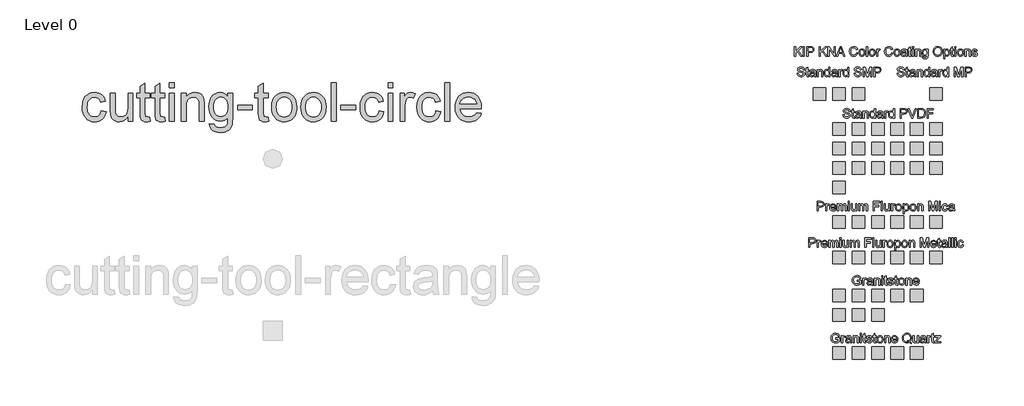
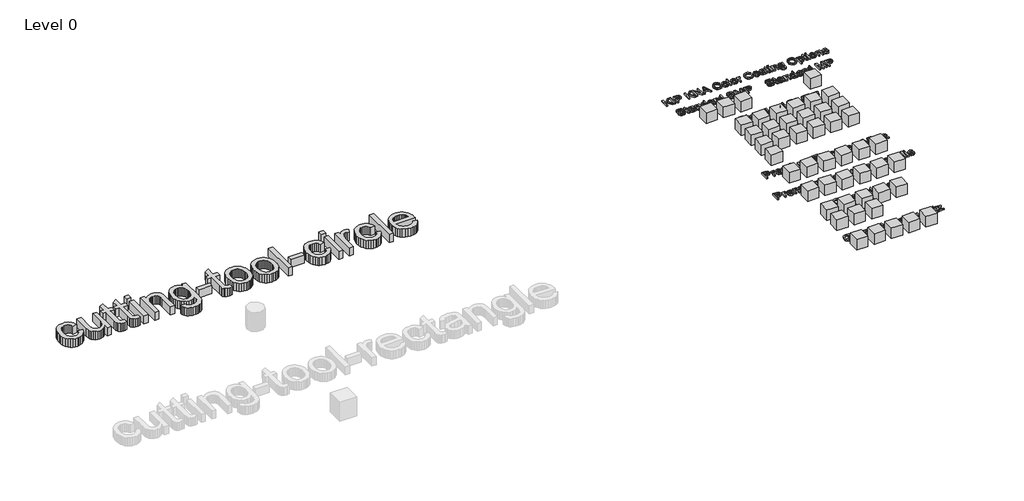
# One storey, part 5 of 5: 50 proxies.
"""IFC4 building model written with IfcOpenShell, lengths in millimetres."""

from ifc_helpers import new_model, si_unit, origin, origin_with_axes, place, context, project, spatial, polyline, outline, extrude, transform, mapped, element, save
from components import ks_color_sample_ks_color_sample_0243efec, r19_kna_color_range_kingspan_quadcore_4278cd54, r19_kna_color_range_kingspan_quadcore_c5814d20, r19_kna_color_range_kingspan_quadcore_91b79b7c

model = new_model("IFC4")

# Units and contexts
model_context = context("Model", 3, world=origin())
ifc_project = project(units=[si_unit("LENGTHUNIT", "METRE", prefix="MILLI")], contexts=[model_context])

# Site, building, storey
site = spatial("IfcSite", under=ifc_project)
building = spatial("IfcBuilding", under=site)
storey = spatial("IfcBuildingStorey", under=building, Name="Level 0", Elevation=0.0)

# Proxies
placement = place(None, origin())
element("IfcBuildingElementProxy", 1, Name="24\" Arial", ObjectType="24\" Arial", at=placement, inside=storey, context=model_context, shape_type="SweptSolid", body=[
    extrude(outline(polyline([(730.3650298, 13365.9184127), (806.5068033, 13356.400691), (798.2252701, 13320.4722211), (785.2778225, 13288.6798704), (767.6644606, 13261.0236391), (745.3851843, 13237.5035271), (719.3787534, 13218.7329812), (690.5839274, 13205.3254484), (659.0007064, 13197.2809288), (624.6290904, 13194.5994222), (581.9248206, 13198.3405189), (543.6355095, 13209.5638089), (509.7611573, 13228.2692922), (480.3017638, 13254.4569688), (456.456339, 13287.6342223), (439.4238928, 13327.3084362), (429.204425, 13373.4796105), (425.7979357, 13426.1477452), (431.6163867, 13493.9057444), (438.8894504, 13524.396844), (449.0717395, 13552.6293436), (462.2329641, 13578.0362696), (478.4428338, 13600.0506484), (497.7013488, 13618.6724798), (520.008509, 13633.901764), (544.3558449, 13645.7431482), (569.734887, 13654.2012798), (596.1456352, 13659.2761587), (623.5880896, 13660.967785), (657.3694953, 13658.6441225), (687.9256575, 13651.673135), (715.2565761, 13640.0548223), (739.3622511, 13623.7891847), (759.8337179, 13603.248008), (776.2620119, 13578.8030783), (788.6471332, 13550.4543955), (796.9890816, 13518.2019597), (720.8473081, 13508.684238), (707.0354581, 13541.9033174), (685.5276378, 13565.7162109), (657.5135624, 13580.0485614), (624.1829472, 13584.8260115), (598.3112887, 13582.4744651), (574.9770696, 13575.4198256), (554.1802901, 13563.6620933), (535.92095, 13547.201268), (521.0541572, 13525.6562691), (510.4350194, 13498.6460159), (504.0635368, 13466.1705085), (501.9397092, 13428.2297468), (504.0170635, 13389.7173642), (510.2491264, 13356.8654235), (520.6358979, 13329.6739246), (535.177378, 13308.1428677), (553.0742267, 13291.7796362), (573.5271042, 13280.0916138), (596.5360105, 13273.0788003), (622.1009456, 13270.7411958), (661.5288513, 13276.578236), (678.5798868, 13283.8745363), (693.8556443, 13294.0893568), (706.9285696, 13307.3342332), (717.371109, 13323.7207013), (725.1832624, 13343.2487611), (730.3650298, 13365.9184127)])), origin_with_axes(), (0.0, 0.0, 1.0), 152.4),
    extrude(outline(polyline([(1158.6625058, 13204.1171439), (1158.6625058, 13281.0024895), (1131.113163, 13243.2011476), (1099.0280309, 13216.2001891), (1062.4071095, 13199.9996139), (1021.2503989, 13194.5994222), (984.1647451, 13198.3916395), (949.6444147, 13209.7682912), (920.682285, 13226.8704474), (900.2712334, 13247.839178), (886.5337406, 13273.3065192), (877.5922872, 13303.9045073), (873.1308551, 13374.6925623), (873.1308551, 13651.4500634), (949.2726287, 13651.4500634), (949.2726287, 13410.5327331), (950.4251653, 13362.349267), (953.8827751, 13332.9038156), (964.9805873, 13307.0089204), (983.9974414, 13287.3228515), (1009.6692649, 13274.8866097), (1040.7319855, 13270.7411958), (1073.5792789, 13274.9795562), (1104.3073921, 13287.6946375), (1129.6446083, 13307.7153138), (1146.3192105, 13333.8704592), (1155.576682, 13369.6920406), (1158.6625058, 13418.7120252), (1158.6625058, 13651.4500634), (1234.8042793, 13651.4500634), (1234.8042793, 13204.1171439), (1158.6625058, 13204.1171439)])), origin_with_axes(), (0.0, 0.0, 1.0), 152.4),
    extrude(outline(polyline([(1501.3004867, 13267.6181933), (1510.8182083, 13201.8864279), (1480.6663635, 13196.4211737), (1453.8605926, 13194.5994222), (1417.3140285, 13197.7596033), (1390.0621144, 13207.2401464), (1370.8035994, 13221.8513363), (1358.2372325, 13240.4034579), (1351.3220128, 13272.2655184), (1349.0169396, 13326.8065251), (1349.0169396, 13575.3082898), (1291.9106095, 13575.3082898), (1291.9106095, 13651.4500634), (1349.0169396, 13651.4500634), (1349.0169396, 13760.1602908), (1425.1587131, 13804.9233256), (1425.1587131, 13651.4500634), (1501.3004867, 13651.4500634), (1501.3004867, 13575.3082898), (1425.1587131, 13575.3082898), (1425.1587131, 13329.0372411), (1429.174002, 13289.7766391), (1442.1865121, 13275.8718426), (1453.1727885, 13272.0238575), (1468.1371751, 13270.7411958), (1501.3004867, 13267.6181933)])), origin_with_axes(), (0.0, 0.0, 1.0), 152.4),
    extrude(outline(polyline([(1739.2435289, 13267.6181933), (1748.7612506, 13201.8864279), (1718.6094057, 13196.4211737), (1691.8036349, 13194.5994222), (1655.2570707, 13197.7596033), (1628.0051567, 13207.2401464), (1608.7466417, 13221.8513363), (1596.1802748, 13240.4034579), (1589.2650551, 13272.2655184), (1586.9599819, 13326.8065251), (1586.9599819, 13575.3082898), (1529.8536517, 13575.3082898), (1529.8536517, 13651.4500634), (1586.9599819, 13651.4500634), (1586.9599819, 13760.1602908), (1663.1017554, 13804.9233256), (1663.1017554, 13651.4500634), (1739.2435289, 13651.4500634), (1739.2435289, 13575.3082898), (1663.1017554, 13575.3082898), (1663.1017554, 13329.0372411), (1667.1170442, 13289.7766391), (1680.1295543, 13275.8718426), (1691.1158307, 13272.0238575), (1706.0802174, 13270.7411958), (1739.2435289, 13267.6181933)])), origin_with_axes(), (0.0, 0.0, 1.0), 152.4),
    extrude(outline(polyline([(1815.3853024, 13737.1095586), (1815.3853024, 13813.2513321), (1891.5270759, 13813.2513321), (1891.5270759, 13737.1095586), (1815.3853024, 13737.1095586)])), origin_with_axes(), (0.0, 0.0, 1.0), 152.4),
    extrude(outline(polyline([(1815.3853024, 13204.1171439), (1815.3853024, 13651.4500634), (1891.5270759, 13651.4500634), (1891.5270759, 13204.1171439), (1815.3853024, 13204.1171439)])), origin_with_axes(), (0.0, 0.0, 1.0), 152.4),
    extrude(outline(polyline([(2005.7397362, 13204.1171439), (2005.7397362, 13651.4500634), (2081.8815097, 13651.4500634), (2081.8815097, 13588.9900148), (2108.3340839, 13620.4802893), (2140.1031979, 13642.9733425), (2177.1888517, 13656.4691744), (2219.5910454, 13660.967785), (2257.1228425, 13657.3428715), (2291.4944585, 13646.4681309), (2320.1591594, 13629.7005821), (2340.570211, 13608.3972441), (2354.4192396, 13582.6138848), (2363.3978716, 13552.406272), (2367.4131604, 13478.7926433), (2367.4131604, 13204.1171439), (2291.2713869, 13204.1171439), (2291.2713869, 13468.5313496), (2289.0778495, 13507.9034874), (2282.4972372, 13535.8989735), (2270.3584242, 13555.9568284), (2251.4902845, 13571.5160726), (2227.305605, 13581.4985268), (2199.2171724, 13584.8260115), (2176.0967303, 13582.9577869), (2154.6214413, 13577.3531129), (2134.7913053, 13568.0119895), (2116.6063225, 13554.9344168), (2101.4142169, 13536.6332508), (2090.5627129, 13511.6213474), (2084.0518105, 13479.8987067), (2081.8815097, 13441.4653286), (2081.8815097, 13204.1171439), (2005.7397362, 13204.1171439)])), origin_with_axes(), (0.0, 0.0, 1.0), 152.4),
    extrude(outline(polyline([(2453.0726556, 13166.0462572), (2529.2144291, 13156.5285355), (2537.6167928, 13132.7342313), (2553.9010198, 13116.3756471), (2585.9117947, 13103.6605658), (2627.8120773, 13099.4222054), (2672.5007549, 13104.2182448), (2690.5509654, 13110.2132941), (2705.7384236, 13118.6063631), (2728.7891558, 13141.6570954), (2742.917024, 13172.4409764), (2747.0438486, 13205.1953233), (2748.122028, 13261.2234741), (2722.7848119, 13236.2394546), (2694.5104863, 13218.3937265), (2663.2990513, 13207.6862896), (2629.1505069, 13204.1171439), (2587.403586, 13208.2718525), (2550.6478922, 13220.7359783), (2518.8834256, 13241.5095212), (2492.110186, 13270.5924814), (2470.8672632, 13305.4845978), (2455.6937469, 13343.6856097), (2446.5896372, 13385.1955169), (2443.5549339, 13430.0143197), (2449.0015989, 13491.4891353), (2465.3415937, 13548.0191972), (2477.4525228, 13573.509775), (2491.9986502, 13595.9238237), (2508.9799759, 13615.2613432), (2528.3964999, 13631.5223336), (2549.9368515, 13644.4047186), (2573.2896599, 13653.6064222), (2598.454925, 13659.1274443), (2625.4326468, 13660.967785), (2661.0404513, 13656.8037818), (2693.3579497, 13644.3117721), (2722.3851419, 13623.4917559), (2748.122028, 13594.3437332), (2748.122028, 13651.4500634), (2824.2638015, 13651.4500634), (2824.2638015, 13265.2387629), (2819.0587975, 13176.06589), (2812.5525424, 13142.8979311), (2803.4437853, 13117.3422907), (2791.5141019, 13096.7314042), (2776.545068, 13078.3977069), (2758.5366834, 13062.3411988), (2737.4889483, 13048.5618801), (2713.6156396, 13037.5012465), (2687.1305341, 13029.6007939), (2658.033632, 13024.8605224), (2626.3249333, 13023.2804318), (2589.0208551, 13025.5065005), (2555.4811103, 13032.1847066), (2525.7056987, 13043.3150501), (2499.6946205, 13058.897531), (2478.6840639, 13078.9507385), (2463.9102176, 13103.4932621), (2455.3730815, 13132.5251016), (2453.0726556, 13166.0462572)]), holes=[polyline([(2519.6967074, 13435.2193237), (2521.7275885, 13397.5713435), (2527.8202316, 13365.379323), (2537.9746368, 13338.643262), (2552.1908042, 13317.3631606), (2569.474206, 13301.1300542), (2588.8303148, 13289.5349782), (2610.2591306, 13282.5779327), (2633.7606533, 13280.2589175), (2657.0298098, 13282.5639907), (2678.3563844, 13289.4792103), (2697.7403772, 13301.0045765), (2715.1817881, 13317.140089), (2729.5931431, 13338.2110608), (2739.886968, 13364.5428044), (2746.063263, 13396.1353201), (2748.122028, 13432.9886077), (2746.0028478, 13468.3036307), (2739.6453071, 13498.9992126), (2729.049406, 13525.0753534), (2714.2151445, 13546.5320532), (2696.3973003, 13563.2856599), (2676.8506511, 13575.2525219), (2655.5751971, 13582.4326391), (2632.5709381, 13584.8260115), (2609.9524071, 13582.4698177), (2589.090565, 13575.4012363), (2569.9854117, 13563.6202673), (2552.6369474, 13547.1269108), (2538.2255924, 13525.9955238), (2527.9317674, 13500.3004636), (2521.7554724, 13470.0417303), (2519.6967074, 13435.2193237)])]), origin_with_axes(), (0.0, 0.0, 1.0), 152.4),
    extrude(outline(polyline([(2900.405575, 13384.953856), (2900.405575, 13461.0956296), (3138.3486173, 13461.0956296), (3138.3486173, 13384.953856), (2900.405575, 13384.953856)])), origin_with_axes(), (0.0, 0.0, 1.0), 152.4),
    extrude(outline(polyline([(3385.8093812, 13267.6181933), (3395.3271029, 13201.8864279), (3365.175258, 13196.4211737), (3338.3694872, 13194.5994222), (3301.822923, 13197.7596033), (3274.571009, 13207.2401464), (3255.312494, 13221.8513363), (3242.7461271, 13240.4034579), (3235.8309074, 13272.2655184), (3233.5258342, 13326.8065251), (3233.5258342, 13575.3082898), (3176.419504, 13575.3082898), (3176.419504, 13651.4500634), (3233.5258342, 13651.4500634), (3233.5258342, 13760.1602908), (3309.6676077, 13804.9233256), (3309.6676077, 13651.4500634), (3385.8093812, 13651.4500634), (3385.8093812, 13575.3082898), (3309.6676077, 13575.3082898), (3309.6676077, 13329.0372411), (3313.6828965, 13289.7766391), (3326.6954066, 13275.8718426), (3337.6816831, 13272.0238575), (3352.6460697, 13270.7411958), (3385.8093812, 13267.6181933)])), origin_with_axes(), (0.0, 0.0, 1.0), 152.4),
    extrude(outline(polyline([(3442.9157113, 13427.7836036), (3447.0332413, 13485.7171576), (3459.3858313, 13535.6387233), (3479.9734812, 13577.5483005), (3508.7961912, 13611.4458894), (3537.8140887, 13633.1117187), (3569.8434529, 13648.5873111), (3604.8842838, 13657.8726666), (3642.9365812, 13660.967785), (3684.9437523, 13657.1988044), (3722.9263399, 13645.8918626), (3756.884344, 13627.0469595), (3786.8177646, 13600.6640953), (3811.2487523, 13567.6355562), (3828.6994579, 13528.8536287), (3839.1698812, 13484.3183128), (3842.6600223, 13434.0296085), (3841.1171104, 13393.2725679), (3836.4883747, 13357.1070844), (3828.7738151, 13325.533158), (3817.9734317, 13298.5507888), (3804.2219969, 13275.2444537), (3787.6542831, 13254.6986297), (3768.2702903, 13236.9133168), (3746.0700186, 13221.8885149), (3721.9178703, 13209.9495369), (3696.678248, 13201.4216954), (3670.3511517, 13196.3049905), (3642.9365812, 13194.5994222), (3600.3159633, 13198.3544609), (3561.980179, 13209.6195768), (3527.9292284, 13228.39477), (3498.1631115, 13254.6800404), (3473.9923739, 13288.0292449), (3456.7275614, 13327.9962403), (3446.3686739, 13374.5810265), (3442.9157113, 13427.7836036)]), holes=[polyline([(3519.0574849, 13427.932318), (3521.2603169, 13391.0000259), (3527.8688131, 13359.0217823), (3538.8829735, 13331.9975872), (3554.302798, 13309.9274405), (3573.0594019, 13292.7834584), (3594.0839004, 13280.537757), (3617.3762935, 13273.1903361), (3642.9365812, 13270.7411958), (3668.3667439, 13273.204278), (3691.5661905, 13280.5935249), (3712.5349211, 13292.9089362), (3731.2729357, 13310.1505121), (3746.6927602, 13332.439083), (3757.7069205, 13359.8954794), (3764.3154167, 13392.5197012), (3766.5182488, 13430.3117485), (3764.3014747, 13466.0729147), (3757.6511526, 13497.2146398), (3746.5672824, 13523.7369238), (3731.0498641, 13545.6397668), (3712.2421396, 13562.7837488), (3691.287351, 13575.0294503), (3668.1854982, 13582.3768712), (3642.9365812, 13584.8260115), (3617.3762935, 13582.3861659), (3594.0839004, 13575.0666289), (3573.0594019, 13562.8674007), (3554.302798, 13545.7884812), (3538.8829735, 13523.7833971), (3527.8688131, 13496.8056752), (3521.2603169, 13464.8553155), (3519.0574849, 13427.932318)])]), origin_with_axes(), (0.0, 0.0, 1.0), 152.4),
    extrude(outline(polyline([(3909.2840741, 13427.7836036), (3913.4016041, 13485.7171576), (3925.7541941, 13535.6387233), (3946.341844, 13577.5483005), (3975.164554, 13611.4458894), (4004.1824515, 13633.1117187), (4036.2118157, 13648.5873111), (4071.2526466, 13657.8726666), (4109.304944, 13660.967785), (4151.3121151, 13657.1988044), (4189.2947027, 13645.8918626), (4223.2527068, 13627.0469595), (4253.1861274, 13600.6640953), (4277.6171151, 13567.6355562), (4295.0678207, 13528.8536287), (4305.538244, 13484.3183128), (4309.0283851, 13434.0296085), (4307.4854732, 13393.2725679), (4302.8567374, 13357.1070844), (4295.1421779, 13325.533158), (4284.3417945, 13298.5507888), (4270.5903597, 13275.2444537), (4254.0226459, 13254.6986297), (4234.6386531, 13236.9133168), (4212.4383814, 13221.8885149), (4188.2862331, 13209.9495369), (4163.0466108, 13201.4216954), (4136.7195145, 13196.3049905), (4109.304944, 13194.5994222), (4066.684326, 13198.3544609), (4028.3485418, 13209.6195768), (3994.2975912, 13228.39477), (3964.5314743, 13254.6800404), (3940.3607367, 13288.0292449), (3923.0959242, 13327.9962403), (3912.7370366, 13374.5810265), (3909.2840741, 13427.7836036)]), holes=[polyline([(3985.4258477, 13427.932318), (3987.6286797, 13391.0000259), (3994.2371759, 13359.0217823), (4005.2513363, 13331.9975872), (4020.6711608, 13309.9274405), (4039.4277647, 13292.7834584), (4060.4522632, 13280.537757), (4083.7446563, 13273.1903361), (4109.304944, 13270.7411958), (4134.7351067, 13273.204278), (4157.9345533, 13280.5935249), (4178.9032839, 13292.9089362), (4197.6412985, 13310.1505121), (4213.0611229, 13332.439083), (4224.0752833, 13359.8954794), (4230.6837795, 13392.5197012), (4232.8866116, 13430.3117485), (4230.6698375, 13466.0729147), (4224.0195154, 13497.2146398), (4212.9356452, 13523.7369238), (4197.4182269, 13545.6397668), (4178.6105024, 13562.7837488), (4157.6557138, 13575.0294503), (4134.553861, 13582.3768712), (4109.304944, 13584.8260115), (4083.7446563, 13582.3861659), (4060.4522632, 13575.0666289), (4039.4277647, 13562.8674007), (4020.6711608, 13545.7884812), (4005.2513363, 13523.7833971), (3994.2371759, 13496.8056752), (3987.6286797, 13464.8553155), (3985.4258477, 13427.932318)])]), origin_with_axes(), (0.0, 0.0, 1.0), 152.4),
    extrude(outline(polyline([(4394.6878803, 13204.1171439), (4394.6878803, 13813.2513321), (4470.8296538, 13813.2513321), (4470.8296538, 13204.1171439), (4394.6878803, 13204.1171439)])), origin_with_axes(), (0.0, 0.0, 1.0), 152.4),
    extrude(outline(polyline([(4546.9714273, 13384.953856), (4546.9714273, 13461.0956296), (4784.9144696, 13461.0956296), (4784.9144696, 13384.953856), (4546.9714273, 13384.953856)])), origin_with_axes(), (0.0, 0.0, 1.0), 152.4),
    extrude(outline(polyline([(5156.1056155, 13365.9184127), (5232.247389, 13356.400691), (5223.9658558, 13320.4722211), (5211.0184082, 13288.6798704), (5193.4050463, 13261.0236391), (5171.12577, 13237.5035271), (5145.1193391, 13218.7329812), (5116.3245131, 13205.3254484), (5084.7412921, 13197.2809288), (5050.3696761, 13194.5994222), (5007.6654063, 13198.3405189), (4969.3760952, 13209.5638089), (4935.501743, 13228.2692922), (4906.0423495, 13254.4569688), (4882.1969247, 13287.6342223), (4865.1644784, 13327.3084362), (4854.9450107, 13373.4796105), (4851.5385214, 13426.1477452), (4857.3569724, 13493.9057444), (4864.6300361, 13524.396844), (4874.8123252, 13552.6293436), (4887.9735498, 13578.0362696), (4904.1834195, 13600.0506484), (4923.4419345, 13618.6724798), (4945.7490947, 13633.901764), (4970.0964306, 13645.7431482), (4995.4754727, 13654.2012798), (5021.8862209, 13659.2761587), (5049.3286753, 13660.967785), (5083.110081, 13658.6441225), (5113.6662432, 13651.673135), (5140.9971618, 13640.0548223), (5165.1028368, 13623.7891847), (5185.5743036, 13603.248008), (5202.0025976, 13578.8030783), (5214.3877189, 13550.4543955), (5222.7296673, 13518.2019597), (5146.5878938, 13508.684238), (5132.7760438, 13541.9033174), (5111.2682235, 13565.7162109), (5083.2541481, 13580.0485614), (5049.9235329, 13584.8260115), (5024.0518744, 13582.4744651), (5000.7176553, 13575.4198256), (4979.9208757, 13563.6620933), (4961.6615356, 13547.201268), (4946.7947428, 13525.6562691), (4936.1756051, 13498.6460159), (4929.8041225, 13466.1705085), (4927.6802949, 13428.2297468), (4929.7576492, 13389.7173642), (4935.9897121, 13356.8654235), (4946.3764836, 13329.6739246), (4960.9179636, 13308.1428677), (4978.8148124, 13291.7796362), (4999.2676899, 13280.0916138), (5022.2765962, 13273.0788003), (5047.8415313, 13270.7411958), (5087.2694369, 13276.578236), (5104.3204725, 13283.8745363), (5119.5962299, 13294.0893568), (5132.6691553, 13307.3342332), (5143.1116947, 13323.7207013), (5150.9238481, 13343.2487611), (5156.1056155, 13365.9184127)])), origin_with_axes(), (0.0, 0.0, 1.0), 152.4),
    extrude(outline(polyline([(5298.8714408, 13737.1095586), (5298.8714408, 13813.2513321), (5375.0132143, 13813.2513321), (5375.0132143, 13737.1095586), (5298.8714408, 13737.1095586)])), origin_with_axes(), (0.0, 0.0, 1.0), 152.4),
    extrude(outline(polyline([(5298.8714408, 13204.1171439), (5298.8714408, 13651.4500634), (5375.0132143, 13651.4500634), (5375.0132143, 13204.1171439), (5298.8714408, 13204.1171439)])), origin_with_axes(), (0.0, 0.0, 1.0), 152.4),
    extrude(outline(polyline([(5489.2258746, 13204.1171439), (5489.2258746, 13651.4500634), (5555.8499264, 13651.4500634), (5555.8499264, 13585.2721547), (5580.4621599, 13623.6404703), (5603.1411061, 13646.2450593), (5625.8944095, 13657.2871036), (5650.7297145, 13660.967785), (5688.6518869, 13655.0935662), (5727.1689169, 13637.4709096), (5701.7387542, 13569.2109994), (5674.970162, 13580.9222585), (5648.2015697, 13584.8260115), (5625.4668556, 13581.0709729), (5605.1487505, 13569.805857), (5588.7343985, 13551.8857716), (5577.7109434, 13528.1658246), (5568.453472, 13485.6335058), (5565.3676481, 13439.2346126), (5565.3676481, 13204.1171439), (5489.2258746, 13204.1171439)])), origin_with_axes(), (0.0, 0.0, 1.0), 152.4),
    extrude(outline(polyline([(6060.289176, 13365.9184127), (6136.4309495, 13356.400691), (6128.1494163, 13320.4722211), (6115.2019687, 13288.6798704), (6097.5886068, 13261.0236391), (6075.3093305, 13237.5035271), (6049.3028996, 13218.7329812), (6020.5080736, 13205.3254484), (5988.9248526, 13197.2809288), (5954.5532366, 13194.5994222), (5911.8489668, 13198.3405189), (5873.5596557, 13209.5638089), (5839.6853035, 13228.2692922), (5810.22591, 13254.4569688), (5786.3804852, 13287.6342223), (5769.348039, 13327.3084362), (5759.1285712, 13373.4796105), (5755.7220819, 13426.1477452), (5761.5405329, 13493.9057444), (5768.8135966, 13524.396844), (5778.9958857, 13552.6293436), (5792.1571103, 13578.0362696), (5808.36698, 13600.0506484), (5827.625495, 13618.6724798), (5849.9326552, 13633.901764), (5874.2799911, 13645.7431482), (5899.6590332, 13654.2012798), (5926.0697814, 13659.2761587), (5953.5122358, 13660.967785), (5987.2936415, 13658.6441225), (6017.8498037, 13651.673135), (6045.1807223, 13640.0548223), (6069.2863973, 13623.7891847), (6089.7578641, 13603.248008), (6106.1861581, 13578.8030783), (6118.5712794, 13550.4543955), (6126.9132278, 13518.2019597), (6050.7714543, 13508.684238), (6036.9596043, 13541.9033174), (6015.451784, 13565.7162109), (5987.4377086, 13580.0485614), (5954.1070934, 13584.8260115), (5928.2354349, 13582.4744651), (5904.9012158, 13575.4198256), (5884.1044363, 13563.6620933), (5865.8450962, 13547.201268), (5850.9783033, 13525.6562691), (5840.3591656, 13498.6460159), (5833.987683, 13466.1705085), (5831.8638554, 13428.2297468), (5833.9412097, 13389.7173642), (5840.1732726, 13356.8654235), (5850.5600441, 13329.6739246), (5865.1015242, 13308.1428677), (5882.9983729, 13291.7796362), (5903.4512504, 13280.0916138), (5926.4601567, 13273.0788003), (5952.0250918, 13270.7411958), (5991.4529974, 13276.578236), (6008.504033, 13283.8745363), (6023.7797905, 13294.0893568), (6036.8527158, 13307.3342332), (6047.2952552, 13323.7207013), (6055.1074086, 13343.2487611), (6060.289176, 13365.9184127)])), origin_with_axes(), (0.0, 0.0, 1.0), 152.4),
    extrude(outline(polyline([(6203.0550013, 13204.1171439), (6203.0550013, 13813.2513321), (6279.1967749, 13813.2513321), (6279.1967749, 13204.1171439), (6203.0550013, 13204.1171439)])), origin_with_axes(), (0.0, 0.0, 1.0), 152.4),
    extrude(outline(polyline([(6706.6019645, 13337.3652476), (6781.256594, 13327.8475259), (6769.8102324, 13297.9466366), (6754.3578766, 13271.5963036), (6734.8995267, 13248.7965269), (6711.4351825, 13229.5473066), (6684.2065051, 13214.2576072), (6653.4551553, 13203.3363933), (6619.1811331, 13196.783665), (6581.3844385, 13194.5994222), (6534.1397321, 13198.3684029), (6492.0442619, 13209.6753447), (6455.0980278, 13228.5202477), (6423.3010298, 13254.903112), (6397.7314474, 13288.0896602), (6379.46746, 13327.3456148), (6368.5090675, 13372.670976), (6364.8562701, 13424.0657436), (6368.5462461, 13477.2032582), (6379.6161744, 13524.039), (6398.0660548, 13564.572969), (6423.8958874, 13598.8051653), (6455.6092335, 13626.0013114), (6491.7096545, 13645.4271301), (6532.1971502, 13657.0826213), (6577.0717209, 13660.967785), (6620.5009734, 13657.091916), (6659.7755173, 13645.4643087), (6694.8953527, 13626.0849633), (6725.8604795, 13598.9538797), (6751.1372804, 13564.7960406), (6769.1921382, 13524.3364288), (6780.0250528, 13477.5750442), (6783.6360244, 13424.5118868), (6783.1898812, 13403.9892994), (6440.9980436, 13403.9892994), (6445.408355, 13373.6050883), (6454.1778574, 13346.9945051), (6467.3065507, 13324.1575498), (6484.7944348, 13305.0942225), (6505.6748662, 13290.0647733), (6528.9812013, 13279.3294524), (6554.7134401, 13272.8882599), (6582.8715825, 13270.7411958), (6623.3962569, 13274.719306), (6657.526212, 13286.6536367), (6685.2614479, 13307.2877599), (6706.6019645, 13337.3652476)]), holes=[polyline([(6440.9980436, 13480.1310729), (6707.4942509, 13480.1310729), (6697.1957786, 13520.3583185), (6688.3379771, 13536.177813), (6677.0077986, 13549.1345552), (6656.2435503, 13564.7495673), (6632.6165498, 13575.9031474), (6606.126797, 13582.5952955), (6576.7742921, 13584.8260115), (6550.0010525, 13583.046086), (6525.4492343, 13577.7063096), (6503.1188374, 13568.8066821), (6483.009862, 13556.3472037), (6466.1354247, 13540.9041425), (6453.5086426, 13523.053767), (6445.1295155, 13502.7960772), (6440.9980436, 13480.1310729)])]), origin_with_axes(), (0.0, 0.0, 1.0), 152.4),
])
ks_color_sample_ks_color_sample_shape = ks_color_sample_ks_color_sample_0243efec(model_context)
element("IfcBuildingElementProxy", 2, Name="KS_Color Sample : KS_Color Sample", ObjectType="KS_Color Sample : KS_Color Sample", at=placement, inside=storey, context=model_context, shape_type="MappedRepresentation", body=[
    mapped(ks_color_sample_ks_color_sample_shape, transform((12166.5853815, 13639.2290821, 0.0), x_axis=(1.0, 0.0, 0.0), y_axis=(0.0, 1.0, 0.0), z_axis=(0.0, 0.0, 1.0))),
])
element("IfcBuildingElementProxy", 3, Name="KS_Color Sample : KS_Color Sample", ObjectType="KS_Color Sample : KS_Color Sample", at=placement, inside=storey, context=model_context, shape_type="MappedRepresentation", body=[
    mapped(ks_color_sample_ks_color_sample_shape, transform((12476.5853815, 13639.2290821, 0.0), x_axis=(1.0, 0.0, 0.0), y_axis=(0.0, 1.0, 0.0), z_axis=(0.0, 0.0, 1.0))),
])
element("IfcBuildingElementProxy", 4, Name="KS_Color Sample : KS_Color Sample", ObjectType="KS_Color Sample : KS_Color Sample", at=placement, inside=storey, context=model_context, shape_type="MappedRepresentation", body=[
    mapped(ks_color_sample_ks_color_sample_shape, transform((12786.5853815, 13639.2290821, 0.0), x_axis=(1.0, 0.0, 0.0), y_axis=(0.0, 1.0, 0.0), z_axis=(0.0, 0.0, 1.0))),
])
element("IfcBuildingElementProxy", 5, Name="KS_Color Sample : KS_Color Sample", ObjectType="KS_Color Sample : KS_Color Sample", at=placement, inside=storey, context=model_context, shape_type="MappedRepresentation", body=[
    mapped(ks_color_sample_ks_color_sample_shape, transform((14026.5853815, 13639.2290821, 0.0), x_axis=(1.0, 0.0, 0.0), y_axis=(0.0, 1.0, 0.0), z_axis=(0.0, 0.0, 1.0))),
])
element("IfcBuildingElementProxy", 6, Name="KS_Color Sample : KS_Color Sample", ObjectType="KS_Color Sample : KS_Color Sample", at=placement, inside=storey, context=model_context, shape_type="MappedRepresentation", body=[
    mapped(ks_color_sample_ks_color_sample_shape, transform((12786.5853815, 13079.2290821, 0.0), x_axis=(1.0, 0.0, 0.0), y_axis=(0.0, 1.0, 0.0), z_axis=(0.0, 0.0, 1.0))),
])
element("IfcBuildingElementProxy", 7, Name="KS_Color Sample : KS_Color Sample", ObjectType="KS_Color Sample : KS_Color Sample", at=placement, inside=storey, context=model_context, shape_type="MappedRepresentation", body=[
    mapped(ks_color_sample_ks_color_sample_shape, transform((13096.5853815, 13079.2290821, 0.0), x_axis=(1.0, 0.0, 0.0), y_axis=(0.0, 1.0, 0.0), z_axis=(0.0, 0.0, 1.0))),
])
element("IfcBuildingElementProxy", 8, Name="KS_Color Sample : KS_Color Sample", ObjectType="KS_Color Sample : KS_Color Sample", at=placement, inside=storey, context=model_context, shape_type="MappedRepresentation", body=[
    mapped(ks_color_sample_ks_color_sample_shape, transform((13406.5853815, 13079.2290821, 0.0), x_axis=(1.0, 0.0, 0.0), y_axis=(0.0, 1.0, 0.0), z_axis=(0.0, 0.0, 1.0))),
])
element("IfcBuildingElementProxy", 9, Name="KS_Color Sample : KS_Color Sample", ObjectType="KS_Color Sample : KS_Color Sample", at=placement, inside=storey, context=model_context, shape_type="MappedRepresentation", body=[
    mapped(ks_color_sample_ks_color_sample_shape, transform((13716.5853815, 13079.2290821, 0.0), x_axis=(1.0, 0.0, 0.0), y_axis=(0.0, 1.0, 0.0), z_axis=(0.0, 0.0, 1.0))),
])
element("IfcBuildingElementProxy", 10, Name="KS_Color Sample : KS_Color Sample", ObjectType="KS_Color Sample : KS_Color Sample", at=placement, inside=storey, context=model_context, shape_type="MappedRepresentation", body=[
    mapped(ks_color_sample_ks_color_sample_shape, transform((12476.5853815, 11599.2290821, 0.0), x_axis=(1.0, 0.0, 0.0), y_axis=(0.0, 1.0, 0.0), z_axis=(0.0, 0.0, 1.0))),
])
element("IfcBuildingElementProxy", 11, Name="KS_Color Sample : KS_Color Sample", ObjectType="KS_Color Sample : KS_Color Sample", at=placement, inside=storey, context=model_context, shape_type="MappedRepresentation", body=[
    mapped(ks_color_sample_ks_color_sample_shape, transform((12786.5853815, 11599.2290821, 0.0), x_axis=(1.0, 0.0, 0.0), y_axis=(0.0, 1.0, 0.0), z_axis=(0.0, 0.0, 1.0))),
])
element("IfcBuildingElementProxy", 12, Name="KS_Color Sample : KS_Color Sample", ObjectType="KS_Color Sample : KS_Color Sample", at=placement, inside=storey, context=model_context, shape_type="MappedRepresentation", body=[
    mapped(ks_color_sample_ks_color_sample_shape, transform((13096.5853815, 11599.2290821, 0.0), x_axis=(1.0, 0.0, 0.0), y_axis=(0.0, 1.0, 0.0), z_axis=(0.0, 0.0, 1.0))),
])
element("IfcBuildingElementProxy", 13, Name="KS_Color Sample : KS_Color Sample", ObjectType="KS_Color Sample : KS_Color Sample", at=placement, inside=storey, context=model_context, shape_type="MappedRepresentation", body=[
    mapped(ks_color_sample_ks_color_sample_shape, transform((13406.5853815, 11599.2290821, 0.0), x_axis=(1.0, 0.0, 0.0), y_axis=(0.0, 1.0, 0.0), z_axis=(0.0, 0.0, 1.0))),
])
element("IfcBuildingElementProxy", 14, Name="KS_Color Sample : KS_Color Sample", ObjectType="KS_Color Sample : KS_Color Sample", at=placement, inside=storey, context=model_context, shape_type="MappedRepresentation", body=[
    mapped(ks_color_sample_ks_color_sample_shape, transform((14026.5853815, 13079.2290821, 0.0), x_axis=(1.0, 0.0, 0.0), y_axis=(0.0, 1.0, 0.0), z_axis=(0.0, 0.0, 1.0))),
])
element("IfcBuildingElementProxy", 15, Name="KS_Color Sample : KS_Color Sample", ObjectType="KS_Color Sample : KS_Color Sample", at=placement, inside=storey, context=model_context, shape_type="MappedRepresentation", body=[
    mapped(ks_color_sample_ks_color_sample_shape, transform((13716.5853815, 12769.2290821, 0.0), x_axis=(1.0, 0.0, 0.0), y_axis=(0.0, 1.0, 0.0), z_axis=(0.0, 0.0, 1.0))),
])
element("IfcBuildingElementProxy", 16, Name="KS_Color Sample : KS_Color Sample", ObjectType="KS_Color Sample : KS_Color Sample", at=placement, inside=storey, context=model_context, shape_type="MappedRepresentation", body=[
    mapped(ks_color_sample_ks_color_sample_shape, transform((14026.5853815, 12769.2290821, 0.0), x_axis=(1.0, 0.0, 0.0), y_axis=(0.0, 1.0, 0.0), z_axis=(0.0, 0.0, 1.0))),
])
element("IfcBuildingElementProxy", 17, Name="KS_Color Sample : KS_Color Sample", ObjectType="KS_Color Sample : KS_Color Sample", at=placement, inside=storey, context=model_context, shape_type="MappedRepresentation", body=[
    mapped(ks_color_sample_ks_color_sample_shape, transform((12476.5853815, 12769.2290821, 0.0), x_axis=(1.0, 0.0, 0.0), y_axis=(0.0, 1.0, 0.0), z_axis=(0.0, 0.0, 1.0))),
])
element("IfcBuildingElementProxy", 18, Name="KS_Color Sample : KS_Color Sample", ObjectType="KS_Color Sample : KS_Color Sample", at=placement, inside=storey, context=model_context, shape_type="MappedRepresentation", body=[
    mapped(ks_color_sample_ks_color_sample_shape, transform((13096.5853815, 12769.2290821, 0.0), x_axis=(1.0, 0.0, 0.0), y_axis=(0.0, 1.0, 0.0), z_axis=(0.0, 0.0, 1.0))),
])
element("IfcBuildingElementProxy", 19, Name="KS_Color Sample : KS_Color Sample", ObjectType="KS_Color Sample : KS_Color Sample", at=placement, inside=storey, context=model_context, shape_type="MappedRepresentation", body=[
    mapped(ks_color_sample_ks_color_sample_shape, transform((13406.5853815, 12769.2290821, 0.0), x_axis=(1.0, 0.0, 0.0), y_axis=(0.0, 1.0, 0.0), z_axis=(0.0, 0.0, 1.0))),
])
element("IfcBuildingElementProxy", 20, Name="KS_Color Sample : KS_Color Sample", ObjectType="KS_Color Sample : KS_Color Sample", at=placement, inside=storey, context=model_context, shape_type="MappedRepresentation", body=[
    mapped(ks_color_sample_ks_color_sample_shape, transform((12476.5853815, 12459.2290821, 0.0), x_axis=(1.0, 0.0, 0.0), y_axis=(0.0, 1.0, 0.0), z_axis=(0.0, 0.0, 1.0))),
])
element("IfcBuildingElementProxy", 21, Name="KS_Color Sample : KS_Color Sample", ObjectType="KS_Color Sample : KS_Color Sample", at=placement, inside=storey, context=model_context, shape_type="MappedRepresentation", body=[
    mapped(ks_color_sample_ks_color_sample_shape, transform((12786.5853815, 12459.2290821, 0.0), x_axis=(1.0, 0.0, 0.0), y_axis=(0.0, 1.0, 0.0), z_axis=(0.0, 0.0, 1.0))),
])
element("IfcBuildingElementProxy", 22, Name="KS_Color Sample : KS_Color Sample", ObjectType="KS_Color Sample : KS_Color Sample", at=placement, inside=storey, context=model_context, shape_type="MappedRepresentation", body=[
    mapped(ks_color_sample_ks_color_sample_shape, transform((13096.5853815, 12459.2290821, 0.0), x_axis=(1.0, 0.0, 0.0), y_axis=(0.0, 1.0, 0.0), z_axis=(0.0, 0.0, 1.0))),
])
element("IfcBuildingElementProxy", 23, Name="KS_Color Sample : KS_Color Sample", ObjectType="KS_Color Sample : KS_Color Sample", at=placement, inside=storey, context=model_context, shape_type="MappedRepresentation", body=[
    mapped(ks_color_sample_ks_color_sample_shape, transform((13406.5853815, 12459.2290821, 0.0), x_axis=(1.0, 0.0, 0.0), y_axis=(0.0, 1.0, 0.0), z_axis=(0.0, 0.0, 1.0))),
])
element("IfcBuildingElementProxy", 24, Name="KS_Color Sample : KS_Color Sample", ObjectType="KS_Color Sample : KS_Color Sample", at=placement, inside=storey, context=model_context, shape_type="MappedRepresentation", body=[
    mapped(ks_color_sample_ks_color_sample_shape, transform((13716.5853815, 12459.2290821, 0.0), x_axis=(1.0, 0.0, 0.0), y_axis=(0.0, 1.0, 0.0), z_axis=(0.0, 0.0, 1.0))),
])
element("IfcBuildingElementProxy", 25, Name="KS_Color Sample : KS_Color Sample", ObjectType="KS_Color Sample : KS_Color Sample", at=placement, inside=storey, context=model_context, shape_type="MappedRepresentation", body=[
    mapped(ks_color_sample_ks_color_sample_shape, transform((14026.5853815, 12459.2290821, 0.0), x_axis=(1.0, 0.0, 0.0), y_axis=(0.0, 1.0, 0.0), z_axis=(0.0, 0.0, 1.0))),
])
element("IfcBuildingElementProxy", 26, Name="KS_Color Sample : KS_Color Sample", ObjectType="KS_Color Sample : KS_Color Sample", at=placement, inside=storey, context=model_context, shape_type="MappedRepresentation", body=[
    mapped(ks_color_sample_ks_color_sample_shape, transform((12476.5853815, 12149.2290821, 0.0), x_axis=(1.0, 0.0, 0.0), y_axis=(0.0, 1.0, 0.0), z_axis=(0.0, 0.0, 1.0))),
])
element("IfcBuildingElementProxy", 27, Name="KS_Color Sample : KS_Color Sample", ObjectType="KS_Color Sample : KS_Color Sample", at=placement, inside=storey, context=model_context, shape_type="MappedRepresentation", body=[
    mapped(ks_color_sample_ks_color_sample_shape, transform((13716.5853815, 11599.2290821, 0.0), x_axis=(1.0, 0.0, 0.0), y_axis=(0.0, 1.0, 0.0), z_axis=(0.0, 0.0, 1.0))),
])
element("IfcBuildingElementProxy", 28, Name="KS_Color Sample : KS_Color Sample", ObjectType="KS_Color Sample : KS_Color Sample", at=placement, inside=storey, context=model_context, shape_type="MappedRepresentation", body=[
    mapped(ks_color_sample_ks_color_sample_shape, transform((14026.5853815, 11599.2290821, 0.0), x_axis=(1.0, 0.0, 0.0), y_axis=(0.0, 1.0, 0.0), z_axis=(0.0, 0.0, 1.0))),
])
element("IfcBuildingElementProxy", 29, Name="KS_Color Sample : KS_Color Sample", ObjectType="KS_Color Sample : KS_Color Sample", at=placement, inside=storey, context=model_context, shape_type="MappedRepresentation", body=[
    mapped(ks_color_sample_ks_color_sample_shape, transform((12476.5853815, 11029.2290821, 0.0), x_axis=(1.0, 0.0, 0.0), y_axis=(0.0, 1.0, 0.0), z_axis=(0.0, 0.0, 1.0))),
])
element("IfcBuildingElementProxy", 30, Name="KS_Color Sample : KS_Color Sample", ObjectType="KS_Color Sample : KS_Color Sample", at=placement, inside=storey, context=model_context, shape_type="MappedRepresentation", body=[
    mapped(ks_color_sample_ks_color_sample_shape, transform((12786.5853815, 11029.2290821, 0.0), x_axis=(1.0, 0.0, 0.0), y_axis=(0.0, 1.0, 0.0), z_axis=(0.0, 0.0, 1.0))),
])
element("IfcBuildingElementProxy", 31, Name="KS_Color Sample : KS_Color Sample", ObjectType="KS_Color Sample : KS_Color Sample", at=placement, inside=storey, context=model_context, shape_type="MappedRepresentation", body=[
    mapped(ks_color_sample_ks_color_sample_shape, transform((13096.5853815, 11029.2290821, 0.0), x_axis=(1.0, 0.0, 0.0), y_axis=(0.0, 1.0, 0.0), z_axis=(0.0, 0.0, 1.0))),
])
element("IfcBuildingElementProxy", 32, Name="KS_Color Sample : KS_Color Sample", ObjectType="KS_Color Sample : KS_Color Sample", at=placement, inside=storey, context=model_context, shape_type="MappedRepresentation", body=[
    mapped(ks_color_sample_ks_color_sample_shape, transform((13406.5853815, 11029.2290821, 0.0), x_axis=(1.0, 0.0, 0.0), y_axis=(0.0, 1.0, 0.0), z_axis=(0.0, 0.0, 1.0))),
])
element("IfcBuildingElementProxy", 33, Name="KS_Color Sample : KS_Color Sample", ObjectType="KS_Color Sample : KS_Color Sample", at=placement, inside=storey, context=model_context, shape_type="MappedRepresentation", body=[
    mapped(ks_color_sample_ks_color_sample_shape, transform((13716.5853815, 11029.2290821, 0.0), x_axis=(1.0, 0.0, 0.0), y_axis=(0.0, 1.0, 0.0), z_axis=(0.0, 0.0, 1.0))),
])
element("IfcBuildingElementProxy", 34, Name="KS_Color Sample : KS_Color Sample", ObjectType="KS_Color Sample : KS_Color Sample", at=placement, inside=storey, context=model_context, shape_type="MappedRepresentation", body=[
    mapped(ks_color_sample_ks_color_sample_shape, transform((14026.5853815, 11029.2290821, 0.0), x_axis=(1.0, 0.0, 0.0), y_axis=(0.0, 1.0, 0.0), z_axis=(0.0, 0.0, 1.0))),
])
element("IfcBuildingElementProxy", 35, Name="KS_Color Sample : KS_Color Sample", ObjectType="KS_Color Sample : KS_Color Sample", at=placement, inside=storey, context=model_context, shape_type="MappedRepresentation", body=[
    mapped(ks_color_sample_ks_color_sample_shape, transform((12476.5853815, 10429.2290821, 0.0), x_axis=(1.0, 0.0, 0.0), y_axis=(0.0, 1.0, 0.0), z_axis=(0.0, 0.0, 1.0))),
])
element("IfcBuildingElementProxy", 36, Name="KS_Color Sample : KS_Color Sample", ObjectType="KS_Color Sample : KS_Color Sample", at=placement, inside=storey, context=model_context, shape_type="MappedRepresentation", body=[
    mapped(ks_color_sample_ks_color_sample_shape, transform((12786.5853815, 10429.2290821, 0.0), x_axis=(1.0, 0.0, 0.0), y_axis=(0.0, 1.0, 0.0), z_axis=(0.0, 0.0, 1.0))),
])
element("IfcBuildingElementProxy", 37, Name="KS_Color Sample : KS_Color Sample", ObjectType="KS_Color Sample : KS_Color Sample", at=placement, inside=storey, context=model_context, shape_type="MappedRepresentation", body=[
    mapped(ks_color_sample_ks_color_sample_shape, transform((13096.5853815, 10429.2290821, 0.0), x_axis=(1.0, 0.0, 0.0), y_axis=(0.0, 1.0, 0.0), z_axis=(0.0, 0.0, 1.0))),
])
element("IfcBuildingElementProxy", 38, Name="KS_Color Sample : KS_Color Sample", ObjectType="KS_Color Sample : KS_Color Sample", at=placement, inside=storey, context=model_context, shape_type="MappedRepresentation", body=[
    mapped(ks_color_sample_ks_color_sample_shape, transform((13406.5853815, 10429.2290821, 0.0), x_axis=(1.0, 0.0, 0.0), y_axis=(0.0, 1.0, 0.0), z_axis=(0.0, 0.0, 1.0))),
])
element("IfcBuildingElementProxy", 39, Name="KS_Color Sample : KS_Color Sample", ObjectType="KS_Color Sample : KS_Color Sample", at=placement, inside=storey, context=model_context, shape_type="MappedRepresentation", body=[
    mapped(ks_color_sample_ks_color_sample_shape, transform((13716.5853815, 10429.2290821, 0.0), x_axis=(1.0, 0.0, 0.0), y_axis=(0.0, 1.0, 0.0), z_axis=(0.0, 0.0, 1.0))),
])
element("IfcBuildingElementProxy", 40, Name="KS_Color Sample : KS_Color Sample", ObjectType="KS_Color Sample : KS_Color Sample", at=placement, inside=storey, context=model_context, shape_type="MappedRepresentation", body=[
    mapped(ks_color_sample_ks_color_sample_shape, transform((12476.5853815, 10119.2290821, 0.0), x_axis=(1.0, 0.0, 0.0), y_axis=(0.0, 1.0, 0.0), z_axis=(0.0, 0.0, 1.0))),
])
element("IfcBuildingElementProxy", 41, Name="KS_Color Sample : KS_Color Sample", ObjectType="KS_Color Sample : KS_Color Sample", at=placement, inside=storey, context=model_context, shape_type="MappedRepresentation", body=[
    mapped(ks_color_sample_ks_color_sample_shape, transform((12786.5853815, 10119.2290821, 0.0), x_axis=(1.0, 0.0, 0.0), y_axis=(0.0, 1.0, 0.0), z_axis=(0.0, 0.0, 1.0))),
])
element("IfcBuildingElementProxy", 42, Name="KS_Color Sample : KS_Color Sample", ObjectType="KS_Color Sample : KS_Color Sample", at=placement, inside=storey, context=model_context, shape_type="MappedRepresentation", body=[
    mapped(ks_color_sample_ks_color_sample_shape, transform((13096.5853815, 10119.2290821, 0.0), x_axis=(1.0, 0.0, 0.0), y_axis=(0.0, 1.0, 0.0), z_axis=(0.0, 0.0, 1.0))),
])
element("IfcBuildingElementProxy", 43, Name="KS_Color Sample : KS_Color Sample", ObjectType="KS_Color Sample : KS_Color Sample", at=placement, inside=storey, context=model_context, shape_type="MappedRepresentation", body=[
    mapped(ks_color_sample_ks_color_sample_shape, transform((12476.5853815, 9509.2290821, 0.0), x_axis=(1.0, 0.0, 0.0), y_axis=(0.0, 1.0, 0.0), z_axis=(0.0, 0.0, 1.0))),
])
element("IfcBuildingElementProxy", 44, Name="KS_Color Sample : KS_Color Sample", ObjectType="KS_Color Sample : KS_Color Sample", at=placement, inside=storey, context=model_context, shape_type="MappedRepresentation", body=[
    mapped(ks_color_sample_ks_color_sample_shape, transform((12786.5853815, 9509.2290821, 0.0), x_axis=(1.0, 0.0, 0.0), y_axis=(0.0, 1.0, 0.0), z_axis=(0.0, 0.0, 1.0))),
])
element("IfcBuildingElementProxy", 45, Name="KS_Color Sample : KS_Color Sample", ObjectType="KS_Color Sample : KS_Color Sample", at=placement, inside=storey, context=model_context, shape_type="MappedRepresentation", body=[
    mapped(ks_color_sample_ks_color_sample_shape, transform((13096.5853815, 9509.2290821, 0.0), x_axis=(1.0, 0.0, 0.0), y_axis=(0.0, 1.0, 0.0), z_axis=(0.0, 0.0, 1.0))),
])
element("IfcBuildingElementProxy", 46, Name="KS_Color Sample : KS_Color Sample", ObjectType="KS_Color Sample : KS_Color Sample", at=placement, inside=storey, context=model_context, shape_type="MappedRepresentation", body=[
    mapped(ks_color_sample_ks_color_sample_shape, transform((13406.5853815, 9509.2290821, 0.0), x_axis=(1.0, 0.0, 0.0), y_axis=(0.0, 1.0, 0.0), z_axis=(0.0, 0.0, 1.0))),
])
element("IfcBuildingElementProxy", 47, Name="KS_Color Sample : KS_Color Sample", ObjectType="KS_Color Sample : KS_Color Sample", at=placement, inside=storey, context=model_context, shape_type="MappedRepresentation", body=[
    mapped(ks_color_sample_ks_color_sample_shape, transform((13716.5853815, 9509.2290821, 0.0), x_axis=(1.0, 0.0, 0.0), y_axis=(0.0, 1.0, 0.0), z_axis=(0.0, 0.0, 1.0))),
])
element("IfcBuildingElementProxy", 48, Name="KS_Color Sample : KS_Color Sample", ObjectType="KS_Color Sample : KS_Color Sample", at=placement, inside=storey, context=model_context, shape_type="MappedRepresentation", body=[
    mapped(ks_color_sample_ks_color_sample_shape, transform((12476.5853815, 13079.2290821, 0.0), x_axis=(1.0, 0.0, 0.0), y_axis=(0.0, 1.0, 0.0), z_axis=(0.0, 0.0, 1.0))),
])
element("IfcBuildingElementProxy", 49, Name="KS_Color Sample : KS_Color Sample", ObjectType="KS_Color Sample : KS_Color Sample", at=placement, inside=storey, context=model_context, shape_type="MappedRepresentation", body=[
    mapped(ks_color_sample_ks_color_sample_shape, transform((12786.5853815, 12769.2290821, 0.0), x_axis=(1.0, 0.0, 0.0), y_axis=(0.0, 1.0, 0.0), z_axis=(0.0, 0.0, 1.0))),
])
r19_kna_color_range_kingspan_quadcore_shape = r19_kna_color_range_kingspan_quadcore_4278cd54(model_context)
r19_kna_color_range_kingspan_quadcore_2_shape = r19_kna_color_range_kingspan_quadcore_c5814d20(model_context)
r19_kna_color_range_kingspan_quadcore_3_shape = r19_kna_color_range_kingspan_quadcore_91b79b7c(model_context)
element("IfcBuildingElementProxy", 50, Name="R19_KNA_Color Range : Kingspan Quadcore", ObjectType="R19_KNA_Color Range : Kingspan Quadcore", at=placement, inside=storey, context=model_context, shape_type="MappedRepresentation", body=[
    mapped(r19_kna_color_range_kingspan_quadcore_shape, transform((13221.5853815, 13539.2290821, 0.0), x_axis=(1.0, 0.0, 0.0), y_axis=(0.0, 1.0, 0.0), z_axis=(0.0, 0.0, 1.0))),
    mapped(r19_kna_color_range_kingspan_quadcore_2_shape, transform((13221.5853815, 13539.2290821, 0.0), x_axis=(1.0, 0.0, 0.0), y_axis=(0.0, 1.0, 0.0), z_axis=(0.0, 0.0, 1.0))),
    mapped(r19_kna_color_range_kingspan_quadcore_3_shape, transform((13221.5853815, 13539.2290821, 0.0), x_axis=(1.0, 0.0, 0.0), y_axis=(0.0, 1.0, 0.0), z_axis=(0.0, 0.0, 1.0))),
])

save(model, "model.ifc")
